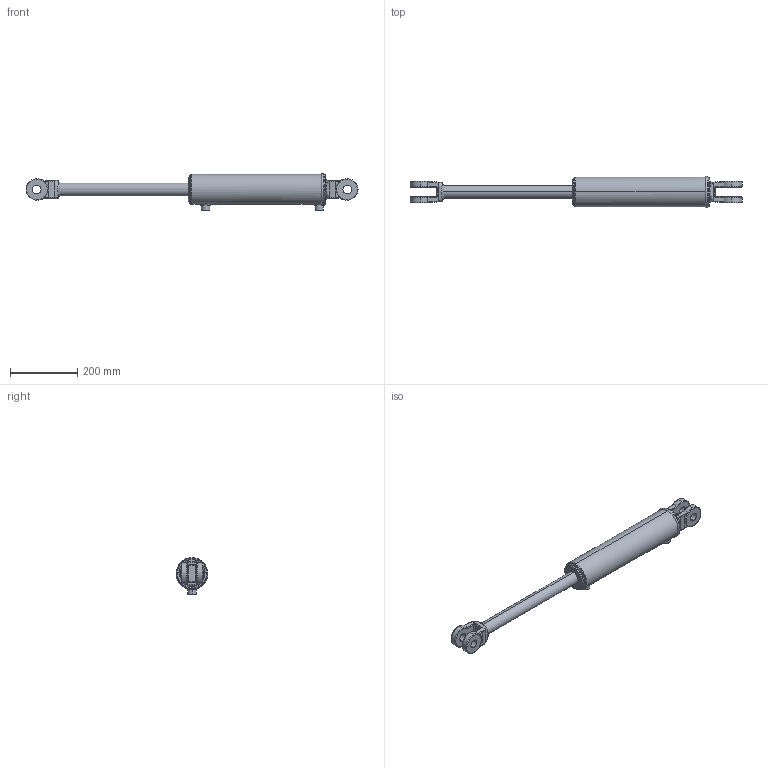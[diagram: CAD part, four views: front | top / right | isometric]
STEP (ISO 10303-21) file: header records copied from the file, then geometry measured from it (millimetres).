
FILE_DESCRIPTION (( 'STEP AP203' ), '1' );
FILE_NAME ('CL-CL300150x305 (12) extended.STEP', '2014-11-21T23:18:45', ( '' ), ( '' ), 'SwSTEP 2.0', 'SolidWorks 2014', '' );
FILE_SCHEMA (( 'CONFIG_CONTROL_DESIGN' ));
Length unit declared in the file: millimetre
Products named in the file (4): CL-CL300150x  body_3x12; 3 in ext circlip; SPARE 6_12x1.5; CL-CL300150x305 (12) extended
Assembly tree (3 placements, depth 2):
  CL-CL300150x305 (12) extended
    CL-CL300150x  body_3x12
    3 in ext circlip
    SPARE 6_12x1.5
Bounding box: 984.39 x 94.87 x 109.9 mm (x, y, z)
Volume: 3019001.5 mm3; surface area: 278819.1 mm2
Topology: 3 solids, 3 shells, 212 faces, 515 edges, 316 vertices
Faces by surface type: cylinder 92, bspline 61, plane 37, torus 14, cone 8
Entity records: 11771 total; most frequent: CARTESIAN_POINT 6695, ORIENTED_EDGE 1022, DIRECTION 943, EDGE_CURVE 511, AXIS2_PLACEMENT_3D 393, VERTEX_POINT 316, CIRCLE 236, EDGE_LOOP 235
